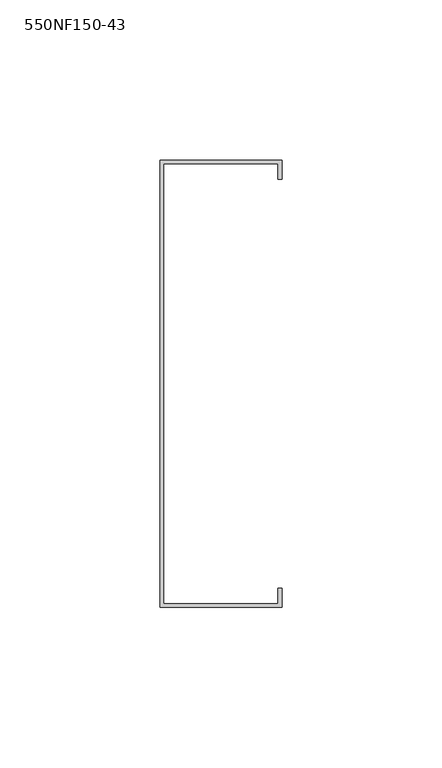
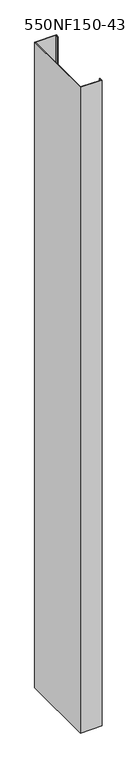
"""IFC4 building model written with IfcOpenShell, lengths in millimetres: column geometry, BIMSF-SSMA-S-Column : 550NF150-43."""

from ifc_helpers import new_model, si_unit, frame, origin, place, context, project, spatial, polyline, outline, extrude, source, transform, mapped, element, save


def column_550nf150_43_03f42614(model_context):
    return source(origin(), model_context, "Body", "SweptSolid", [
        extrude(outline(polyline([(-11.9977877, -80.5871249), (-11.9977877, 59.1128751), (26.1022123, 59.1128751), (26.1022123, 53.1879908), (24.952528, 53.1879908), (24.952528, 57.9631908), (-10.8481035, 57.9631908), (-10.8481035, -79.4374407), (24.952528, -79.4374407), (24.952528, -74.6622407), (26.1022123, -74.6622407), (26.1022123, -80.5871249), (-11.9977877, -80.5871249)])), frame((0.0, 0.0, 5525.3929688), z_axis=(0.0, 0.0, 1.0), x_axis=(1.0, 0.0, 0.0)), (0.0, 0.0, 1.0), 1204.1812991),
    ])


if __name__ == "__main__":
    model = new_model("IFC4")
    model_context = context("Model", 3, world=origin())
    ifc_project = project(units=[si_unit("LENGTHUNIT", "METRE", prefix="MILLI")], contexts=[model_context])
    site = spatial("IfcSite", under=ifc_project)
    building = spatial("IfcBuilding", under=site)
    placement = place(None, origin())
    column_550nf150_43_shape = column_550nf150_43_03f42614(model_context)
    element("IfcColumn", 1, ObjectType="BIMSF-SSMA-S-Column : 550NF150-43", at=placement, inside=building, context=model_context, shape_type="MappedRepresentation", body=[
        mapped(column_550nf150_43_shape, transform((0.0, 0.0, 0.0), x_axis=(1.0, 0.0, 0.0), y_axis=(0.0, 1.0, 0.0), z_axis=(0.0, 0.0, 1.0))),
    ])
    save(model, "model.ifc")
